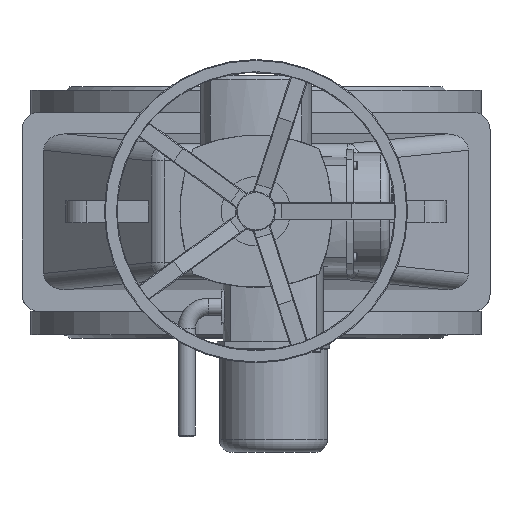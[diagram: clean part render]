
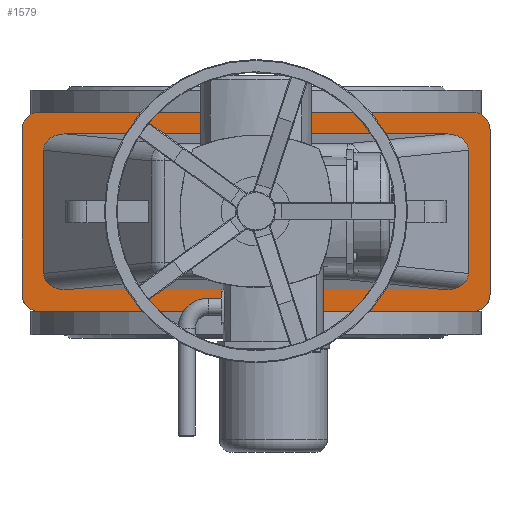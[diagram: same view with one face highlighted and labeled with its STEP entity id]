
A CAD part, top view. The second image highlights one B-rep face of the part: STEP entity #1579.
In plain terms, the highlighted planar face has unit normal (0, 0, 1).
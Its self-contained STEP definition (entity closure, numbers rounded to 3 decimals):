
#1579=ADVANCED_FACE('',(#6616,#6618),#6620,.T.);
#6616=FACE_BOUND('',#6617,.T.);
#6617=EDGE_LOOP('',(#10888,#10889,#10890,#10891,#10892,#10893,#10894,#10895));
#6618=FACE_BOUND('',#6619,.T.);
#6619=EDGE_LOOP('',(#10896,#10897,#10898,#10899,#10900,#10901,#10902,#10903));
#6620=PLANE('',#6621);
#6621=AXIS2_PLACEMENT_3D('',#6622,#6623,#6624);
#6622=CARTESIAN_POINT('',(0.,0.,466.));
#6623=DIRECTION('',(0.,-0.,1.));
#6624=DIRECTION('',(0.,1.,0.));
#10888=ORIENTED_EDGE('',*,*,#12671,.F.);
#10889=ORIENTED_EDGE('',*,*,#12684,.T.);
#10890=ORIENTED_EDGE('',*,*,#12683,.F.);
#10891=ORIENTED_EDGE('',*,*,#12681,.T.);
#10892=ORIENTED_EDGE('',*,*,#12679,.F.);
#10893=ORIENTED_EDGE('',*,*,#12677,.T.);
#10894=ORIENTED_EDGE('',*,*,#12675,.F.);
#10895=ORIENTED_EDGE('',*,*,#12672,.T.);
#10896=ORIENTED_EDGE('',*,*,#12685,.F.);
#10897=ORIENTED_EDGE('',*,*,#12686,.F.);
#10898=ORIENTED_EDGE('',*,*,#12687,.F.);
#10899=ORIENTED_EDGE('',*,*,#12688,.F.);
#10900=ORIENTED_EDGE('',*,*,#12689,.F.);
#10901=ORIENTED_EDGE('',*,*,#12690,.F.);
#10902=ORIENTED_EDGE('',*,*,#12691,.F.);
#10903=ORIENTED_EDGE('',*,*,#12692,.F.);
#12671=EDGE_CURVE('',#14039,#14037,#14041,.F.);
#12672=EDGE_CURVE('',#14042,#14037,#14043,.T.);
#12675=EDGE_CURVE('',#14042,#14045,#14047,.F.);
#12677=EDGE_CURVE('',#14048,#14045,#14050,.T.);
#12679=EDGE_CURVE('',#14048,#14051,#14053,.F.);
#12681=EDGE_CURVE('',#14054,#14051,#14056,.T.);
#12683=EDGE_CURVE('',#14054,#14057,#14059,.F.);
#12684=EDGE_CURVE('',#14039,#14057,#14060,.T.);
#12685=EDGE_CURVE('',#14061,#14062,#14063,.F.);
#12686=EDGE_CURVE('',#14064,#14061,#14065,.T.);
#12687=EDGE_CURVE('',#14066,#14064,#14067,.T.);
#12688=EDGE_CURVE('',#14068,#14066,#14069,.T.);
#12689=EDGE_CURVE('',#14070,#14068,#14071,.F.);
#12690=EDGE_CURVE('',#14072,#14070,#14073,.T.);
#12691=EDGE_CURVE('',#14074,#14072,#14075,.T.);
#12692=EDGE_CURVE('',#14062,#14074,#14076,.T.);
#14037=VERTEX_POINT('',#16832);
#14039=VERTEX_POINT('',#16836);
#14041=CIRCLE('',#16840,20.);
#14042=VERTEX_POINT('',#16844);
#14043=LINE('',#16845,#16846);
#14045=VERTEX_POINT('',#16851);
#14047=CIRCLE('',#16855,20.);
#14048=VERTEX_POINT('',#16859);
#14050=LINE('',#16863,#16864);
#14051=VERTEX_POINT('',#16866);
#14053=CIRCLE('',#16870,20.);
#14054=VERTEX_POINT('',#16874);
#14056=LINE('',#16878,#16879);
#14057=VERTEX_POINT('',#16881);
#14059=CIRCLE('',#16885,20.);
#14060=LINE('',#16889,#16890);
#14061=VERTEX_POINT('',#16892);
#14062=VERTEX_POINT('',#16893);
#14063=(BOUNDED_CURVE()B_SPLINE_CURVE(3,
(#16894,#16895,#16896,#16897),
.UNSPECIFIED.,.F.,.F.)B_SPLINE_CURVE_WITH_KNOTS((4,4),
(0.,1.),
.UNSPECIFIED.)CURVE()GEOMETRIC_REPRESENTATION_ITEM()RATIONAL_B_SPLINE_CURVE((1.,
0.818,0.818,1.))REPRESENTATION_ITEM(''));
#14064=VERTEX_POINT('',#16898);
#14065=LINE('',#16899,#16900);
#14066=VERTEX_POINT('',#16902);
#14067=(BOUNDED_CURVE()B_SPLINE_CURVE(3,
(#16903,#16904,#16905,#16906),
.UNSPECIFIED.,.F.,.F.)B_SPLINE_CURVE_WITH_KNOTS((4,4),
(0.,1.),
.UNSPECIFIED.)CURVE()GEOMETRIC_REPRESENTATION_ITEM()RATIONAL_B_SPLINE_CURVE((1.,
0.818,0.818,1.))REPRESENTATION_ITEM(''));
#14068=VERTEX_POINT('',#16907);
#14069=LINE('',#16908,#16909);
#14070=VERTEX_POINT('',#16911);
#14071=(BOUNDED_CURVE()B_SPLINE_CURVE(3,
(#16912,#16913,#16914,#16915),
.UNSPECIFIED.,.F.,.F.)B_SPLINE_CURVE_WITH_KNOTS((4,4),
(0.,1.),
.UNSPECIFIED.)CURVE()GEOMETRIC_REPRESENTATION_ITEM()RATIONAL_B_SPLINE_CURVE((1.,
0.818,0.818,1.))REPRESENTATION_ITEM(''));
#14072=VERTEX_POINT('',#16916);
#14073=LINE('',#16917,#16918);
#14074=VERTEX_POINT('',#16920);
#14075=(BOUNDED_CURVE()B_SPLINE_CURVE(3,
(#16921,#16922,#16923,#16924),
.UNSPECIFIED.,.F.,.F.)B_SPLINE_CURVE_WITH_KNOTS((4,4),
(0.,1.),
.UNSPECIFIED.)CURVE()GEOMETRIC_REPRESENTATION_ITEM()RATIONAL_B_SPLINE_CURVE((1.,
0.818,0.818,1.))REPRESENTATION_ITEM(''));
#14076=LINE('',#16925,#16926);
#16832=CARTESIAN_POINT('',(-270.,-95.,466.));
#16836=CARTESIAN_POINT('',(-250.,-115.,466.));
#16840=AXIS2_PLACEMENT_3D('',#16841,#16842,#16843);
#16841=CARTESIAN_POINT('',(-250.,-95.,466.));
#16842=DIRECTION('',(0.,-0.,1.));
#16843=DIRECTION('',(-1.,0.,0.));
#16844=CARTESIAN_POINT('',(-270.,95.,466.));
#16845=CARTESIAN_POINT('',(-270.,95.,466.));
#16846=VECTOR('',#16847,1.);
#16847=DIRECTION('',(0.,-1.,0.));
#16851=CARTESIAN_POINT('',(-250.,115.,466.));
#16855=AXIS2_PLACEMENT_3D('',#16856,#16857,#16858);
#16856=CARTESIAN_POINT('',(-250.,95.,466.));
#16857=DIRECTION('',(0.,-0.,1.));
#16858=DIRECTION('',(0.,1.,0.));
#16859=CARTESIAN_POINT('',(250.,115.,466.));
#16863=CARTESIAN_POINT('',(250.,115.,466.));
#16864=VECTOR('',#16865,1.);
#16865=DIRECTION('',(-1.,0.,0.));
#16866=CARTESIAN_POINT('',(270.,95.,466.));
#16870=AXIS2_PLACEMENT_3D('',#16871,#16872,#16873);
#16871=CARTESIAN_POINT('',(250.,95.,466.));
#16872=DIRECTION('',(0.,-0.,1.));
#16873=DIRECTION('',(1.,0.,0.));
#16874=CARTESIAN_POINT('',(270.,-95.,466.));
#16878=CARTESIAN_POINT('',(270.,-95.,466.));
#16879=VECTOR('',#16880,1.);
#16880=DIRECTION('',(0.,1.,0.));
#16881=CARTESIAN_POINT('',(250.,-115.,466.));
#16885=AXIS2_PLACEMENT_3D('',#16886,#16887,#16888);
#16886=CARTESIAN_POINT('',(250.,-95.,466.));
#16887=DIRECTION('',(0.,-0.,1.));
#16888=DIRECTION('',(0.,-1.,0.));
#16889=CARTESIAN_POINT('',(-250.,-115.,466.));
#16890=VECTOR('',#16891,1.);
#16891=DIRECTION('',(1.,0.,0.));
#16892=CARTESIAN_POINT('',(-245.,-71.07,466.));
#16893=CARTESIAN_POINT('',(-220.045,-90.,466.));
#16894=CARTESIAN_POINT('',(-220.045,-90.,466.));
#16895=CARTESIAN_POINT('',(-234.831,-90.,466.));
#16896=CARTESIAN_POINT('',(-245.,-82.286,466.));
#16897=CARTESIAN_POINT('',(-245.,-71.07,466.));
#16898=CARTESIAN_POINT('',(-245.,71.07,466.));
#16899=CARTESIAN_POINT('',(-245.,71.07,466.));
#16900=VECTOR('',#16901,1.);
#16901=DIRECTION('',(0.,-1.,0.));
#16902=CARTESIAN_POINT('',(-220.045,90.,466.));
#16903=CARTESIAN_POINT('',(-220.045,90.,466.));
#16904=CARTESIAN_POINT('',(-234.831,90.,466.));
#16905=CARTESIAN_POINT('',(-245.,82.286,466.));
#16906=CARTESIAN_POINT('',(-245.,71.07,466.));
#16907=CARTESIAN_POINT('',(220.045,90.,466.));
#16908=CARTESIAN_POINT('',(220.045,90.,466.));
#16909=VECTOR('',#16910,1.);
#16910=DIRECTION('',(-1.,0.,0.));
#16911=CARTESIAN_POINT('',(245.,71.07,466.));
#16912=CARTESIAN_POINT('',(220.045,90.,466.));
#16913=CARTESIAN_POINT('',(234.831,90.,466.));
#16914=CARTESIAN_POINT('',(245.,82.286,466.));
#16915=CARTESIAN_POINT('',(245.,71.07,466.));
#16916=CARTESIAN_POINT('',(245.,-71.07,466.));
#16917=CARTESIAN_POINT('',(245.,-71.07,466.));
#16918=VECTOR('',#16919,1.);
#16919=DIRECTION('',(0.,1.,0.));
#16920=CARTESIAN_POINT('',(220.045,-90.,466.));
#16921=CARTESIAN_POINT('',(220.045,-90.,466.));
#16922=CARTESIAN_POINT('',(234.831,-90.,466.));
#16923=CARTESIAN_POINT('',(245.,-82.286,466.));
#16924=CARTESIAN_POINT('',(245.,-71.07,466.));
#16925=CARTESIAN_POINT('',(-220.045,-90.,466.));
#16926=VECTOR('',#16927,1.);
#16927=DIRECTION('',(1.,0.,0.));
